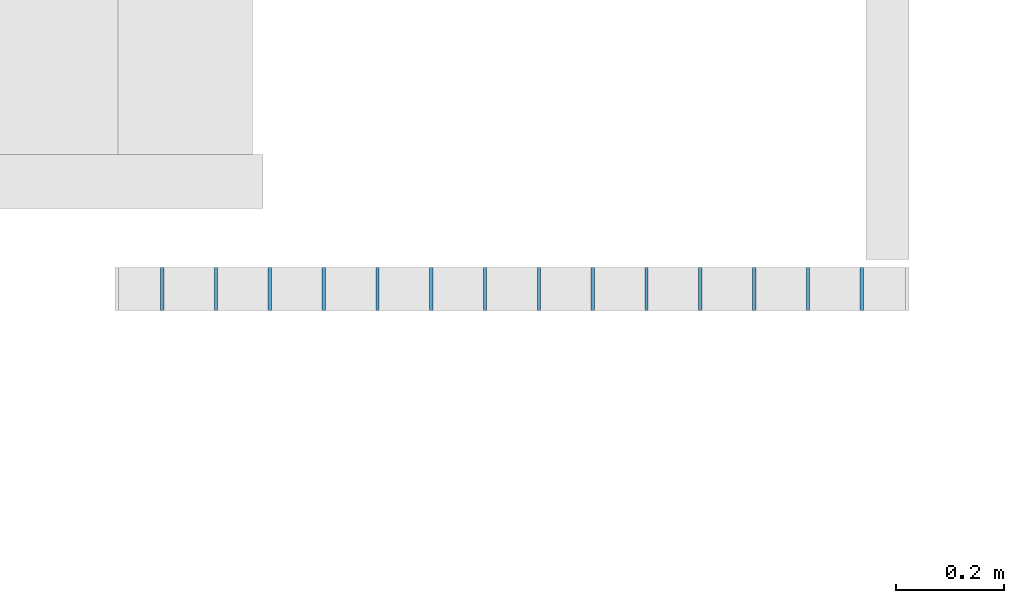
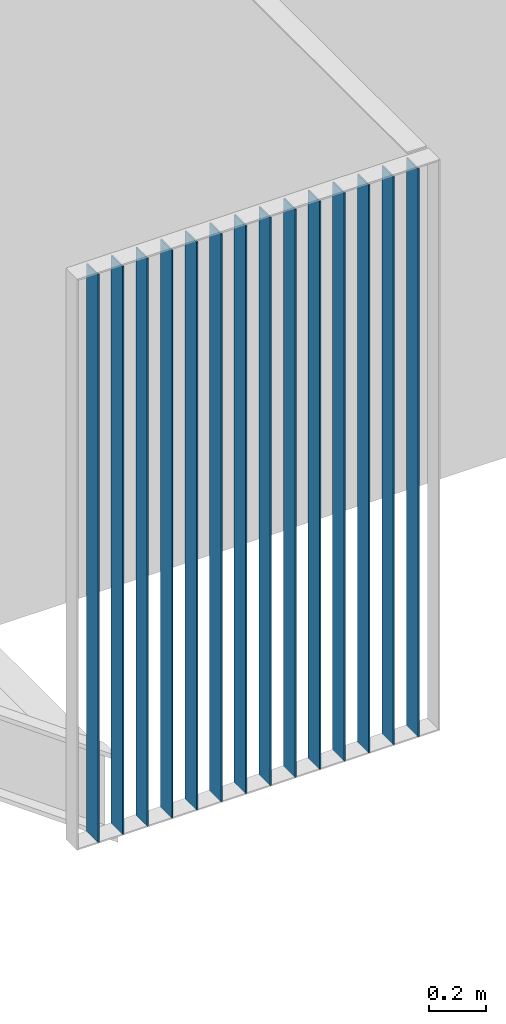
# One storey, part 4 of 347: 14 members, 1 element without a shape of its own.
"""IFC2X3 building model written with IfcOpenShell, lengths in millimetres."""

from ifc_helpers import new_model, entity, si_unit, converted_unit, derived_unit, money_unit, direction, frame, origin_with_axes, place, context, subcontext, project, spatial, faceted_brep, source, transform, mapped, material, type_object, type_shapes, element, aggregate, save


model = new_model("IFC2X3")

# Units and contexts
model_context = context("Model", 3, precision=0.01, world=origin_with_axes(), true_north=direction((0.0, 1.0)))
plan_context = context("Plan", 3, precision=0.01, world=origin_with_axes(), true_north=direction((0.0, 1.0)))
body_context = subcontext(model_context, "Body", "Model", "MODEL_VIEW")
ifc_project = project(units=[si_unit("LENGTHUNIT", "METRE", prefix="MILLI"), si_unit("AREAUNIT", "SQUARE_METRE"), si_unit("VOLUMEUNIT", "CUBIC_METRE"), converted_unit("PLANEANGLEUNIT", "DEGREE", entity("IfcPlaneAngleMeasure", 0.0174532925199), si_unit("PLANEANGLEUNIT", "RADIAN"), dimensions=[0, 0, 0, 0, 0, 0, 0]), money_unit("EUR"), converted_unit("TIMEUNIT", "Year", entity("IfcTimeMeasure", 31556926.0), si_unit("TIMEUNIT", "SECOND"), dimensions=[0, 0, 1, 0, 0, 0, 0]), si_unit("MASSUNIT", "GRAM", prefix="KILO"), si_unit("THERMODYNAMICTEMPERATUREUNIT", "DEGREE_CELSIUS"), si_unit("LUMINOUSINTENSITYUNIT", "LUMEN"), si_unit("ENERGYUNIT", "JOULE", prefix="MEGA"), derived_unit("THERMALCONDUCTANCEUNIT", [(si_unit("POWERUNIT", "WATT"), 1), (si_unit("LENGTHUNIT", "METRE"), -1), (si_unit("THERMODYNAMICTEMPERATUREUNIT", "KELVIN"), -1)]), derived_unit("SPECIFICHEATCAPACITYUNIT", [(si_unit("ENERGYUNIT", "JOULE"), 1), (si_unit("MASSUNIT", "GRAM", prefix="KILO"), -1), (si_unit("THERMODYNAMICTEMPERATUREUNIT", "KELVIN"), -1)]), derived_unit("MASSDENSITYUNIT", [(si_unit("MASSUNIT", "GRAM", prefix="KILO"), 1), (si_unit("VOLUMEUNIT", "CUBIC_METRE"), -1)])], contexts=[model_context, plan_context])

# Site, building, storey
site_placement = place(None, origin_with_axes())
site = spatial("IfcSite", under=ifc_project, at=site_placement, Name="Site", CompositionType="ELEMENT")
building_placement = place(site_placement, origin_with_axes())
building = spatial("IfcBuilding", under=site, at=building_placement, Name="Naam gebouw", CompositionType="ELEMENT")
storey_placement = place(building_placement, origin_with_axes())
storey = spatial("IfcBuildingStorey", under=building, at=storey_placement, Name="begane grond", CompositionType="ELEMENT", Elevation=0.0)

# Railing, members
railing_type = type_object("IfcRailingType", Name="Railing Type", PredefinedType="NOTDEFINED")
railing_placement = place(storey_placement, frame((53776.334071, 9964.99999938, 0.0), z_axis=(0.0, 0.0, 1.0), x_axis=(0.0, 1.0, 0.0)))
railing = element("IfcRailing", 1, at=railing_placement, inside=storey, type_object=railing_type, Name="_Reling-x", PredefinedType="NOTDEFINED")
ifc_material = material(Name="Metaal - RVS")
member_type = type_object("IfcMemberType", Name="IfcMember", PredefinedType="MEMBER")
shared_shape = source(origin_with_axes(), body_context, "Body", "Brep", [
    faceted_brep([(40.0, 3.0, 0.0), (-40.0, 3.0, 0.0), (-40.0, 3.0, 2440.0), (40.0, 3.0, 2440.0), (40.0, -3.0, 0.0), (-40.0, -3.0, 0.0), (-40.0, -3.0, 2440.0), (40.0, -3.0, 2440.0)], [[[0, 1, 2, 3]], [[0, 4, 5, 1]], [[1, 5, 6, 2]], [[3, 2, 6, 7]], [[4, 0, 3, 7]], [[5, 4, 7, 6]]]),
])
type_shapes(member_type, [shared_shape])
member_1_placement = place(railing_placement, frame((-55.0, 388.834149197, -50.0), z_axis=(0.0, 0.0, 1.0), x_axis=(0.0, -1.0, 0.0)))
member_1 = element("IfcMember", 2, at=member_1_placement, type_object=member_type, material=ifc_material, Name="_Spijlen-x", ObjectType="MEMBER", context=body_context, shape_type="MappedRepresentation", body=[
    mapped(shared_shape, transform((0.0, 0.0, 0.0), x_axis=(0.0, -1.0, 0.0), y_axis=(1.0, 0.0, 0.0), z_axis=(0.0, 0.0, 1.0))),
])
member_2_placement = place(railing_placement, frame((-55.0, 288.834149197, -50.0), z_axis=(0.0, 0.0, 1.0), x_axis=(0.0, -1.0, 0.0)))
member_2 = element("IfcMember", 3, at=member_2_placement, type_object=member_type, material=ifc_material, Name="_Spijlen-x", ObjectType="MEMBER", context=body_context, shape_type="MappedRepresentation", body=[
    mapped(shared_shape, transform((0.0, 0.0, 0.0), x_axis=(0.0, -1.0, 0.0), y_axis=(1.0, 0.0, 0.0), z_axis=(0.0, 0.0, 1.0))),
])
member_3_placement = place(railing_placement, frame((-55.0, 188.834149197, -50.0), z_axis=(0.0, 0.0, 1.0), x_axis=(0.0, -1.0, 0.0)))
member_3 = element("IfcMember", 4, at=member_3_placement, type_object=member_type, material=ifc_material, Name="_Spijlen-x", ObjectType="MEMBER", context=body_context, shape_type="MappedRepresentation", body=[
    mapped(shared_shape, transform((0.0, 0.0, 0.0), x_axis=(0.0, -1.0, 0.0), y_axis=(1.0, 0.0, 0.0), z_axis=(0.0, 0.0, 1.0))),
])
member_4_placement = place(railing_placement, frame((-55.0, 88.8341491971, -50.0), z_axis=(0.0, 0.0, 1.0), x_axis=(0.0, -1.0, 0.0)))
member_4 = element("IfcMember", 5, at=member_4_placement, type_object=member_type, material=ifc_material, Name="_Spijlen-x", ObjectType="MEMBER", context=body_context, shape_type="MappedRepresentation", body=[
    mapped(shared_shape, transform((0.0, 0.0, 0.0), x_axis=(0.0, -1.0, 0.0), y_axis=(1.0, 0.0, 0.0), z_axis=(0.0, 0.0, 1.0))),
])
member_5_placement = place(railing_placement, frame((-55.0, -11.1658508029, -50.0), z_axis=(0.0, 0.0, 1.0), x_axis=(0.0, -1.0, 0.0)))
member_5 = element("IfcMember", 6, at=member_5_placement, type_object=member_type, material=ifc_material, Name="_Spijlen-x", ObjectType="MEMBER", context=body_context, shape_type="MappedRepresentation", body=[
    mapped(shared_shape, transform((0.0, 0.0, 0.0), x_axis=(0.0, -1.0, 0.0), y_axis=(1.0, 0.0, 0.0), z_axis=(0.0, 0.0, 1.0))),
])
member_6_placement = place(railing_placement, frame((-55.0, -111.165850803, -50.0), z_axis=(0.0, 0.0, 1.0), x_axis=(0.0, -1.0, 0.0)))
member_6 = element("IfcMember", 7, at=member_6_placement, type_object=member_type, material=ifc_material, Name="_Spijlen-x", ObjectType="MEMBER", context=body_context, shape_type="MappedRepresentation", body=[
    mapped(shared_shape, transform((0.0, 0.0, 0.0), x_axis=(0.0, -1.0, 0.0), y_axis=(1.0, 0.0, 0.0), z_axis=(0.0, 0.0, 1.0))),
])
member_7_placement = place(railing_placement, frame((-55.0, -211.165850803, -50.0), z_axis=(0.0, 0.0, 1.0), x_axis=(0.0, -1.0, 0.0)))
member_7 = element("IfcMember", 8, at=member_7_placement, type_object=member_type, material=ifc_material, Name="_Spijlen-x", ObjectType="MEMBER", context=body_context, shape_type="MappedRepresentation", body=[
    mapped(shared_shape, transform((0.0, 0.0, 0.0), x_axis=(0.0, -1.0, 0.0), y_axis=(1.0, 0.0, 0.0), z_axis=(0.0, 0.0, 1.0))),
])
member_8_placement = place(railing_placement, frame((-55.0, -311.165850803, -50.0), z_axis=(0.0, 0.0, 1.0), x_axis=(0.0, -1.0, 0.0)))
member_8 = element("IfcMember", 9, at=member_8_placement, type_object=member_type, material=ifc_material, Name="_Spijlen-x", ObjectType="MEMBER", context=body_context, shape_type="MappedRepresentation", body=[
    mapped(shared_shape, transform((0.0, 0.0, 0.0), x_axis=(0.0, -1.0, 0.0), y_axis=(1.0, 0.0, 0.0), z_axis=(0.0, 0.0, 1.0))),
])
member_9_placement = place(railing_placement, frame((-55.0, -411.165850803, -50.0), z_axis=(0.0, 0.0, 1.0), x_axis=(0.0, -1.0, 0.0)))
member_9 = element("IfcMember", 10, at=member_9_placement, type_object=member_type, material=ifc_material, Name="_Spijlen-x", ObjectType="MEMBER", context=body_context, shape_type="MappedRepresentation", body=[
    mapped(shared_shape, transform((0.0, 0.0, 0.0), x_axis=(0.0, -1.0, 0.0), y_axis=(1.0, 0.0, 0.0), z_axis=(0.0, 0.0, 1.0))),
])
member_10_placement = place(railing_placement, frame((-55.0, -511.165850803, -50.0), z_axis=(0.0, 0.0, 1.0), x_axis=(0.0, -1.0, 0.0)))
member_10 = element("IfcMember", 11, at=member_10_placement, type_object=member_type, material=ifc_material, Name="_Spijlen-x", ObjectType="MEMBER", context=body_context, shape_type="MappedRepresentation", body=[
    mapped(shared_shape, transform((0.0, 0.0, 0.0), x_axis=(0.0, -1.0, 0.0), y_axis=(1.0, 0.0, 0.0), z_axis=(0.0, 0.0, 1.0))),
])
member_11_placement = place(railing_placement, frame((-55.0, -611.165850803, -50.0), z_axis=(0.0, 0.0, 1.0), x_axis=(0.0, -1.0, 0.0)))
member_11 = element("IfcMember", 12, at=member_11_placement, type_object=member_type, material=ifc_material, Name="_Spijlen-x", ObjectType="MEMBER", context=body_context, shape_type="MappedRepresentation", body=[
    mapped(shared_shape, transform((0.0, 0.0, 0.0), x_axis=(0.0, -1.0, 0.0), y_axis=(1.0, 0.0, 0.0), z_axis=(0.0, 0.0, 1.0))),
])
member_12_placement = place(railing_placement, frame((-55.0, -711.165850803, -50.0), z_axis=(0.0, 0.0, 1.0), x_axis=(0.0, -1.0, 0.0)))
member_12 = element("IfcMember", 13, at=member_12_placement, type_object=member_type, material=ifc_material, Name="_Spijlen-x", ObjectType="MEMBER", context=body_context, shape_type="MappedRepresentation", body=[
    mapped(shared_shape, transform((0.0, 0.0, 0.0), x_axis=(0.0, -1.0, 0.0), y_axis=(1.0, 0.0, 0.0), z_axis=(0.0, 0.0, 1.0))),
])
member_13_placement = place(railing_placement, frame((-55.0, -811.165850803, -50.0), z_axis=(0.0, 0.0, 1.0), x_axis=(0.0, -1.0, 0.0)))
member_13 = element("IfcMember", 14, at=member_13_placement, type_object=member_type, material=ifc_material, Name="_Spijlen-x", ObjectType="MEMBER", context=body_context, shape_type="MappedRepresentation", body=[
    mapped(shared_shape, transform((0.0, 0.0, 0.0), x_axis=(0.0, -1.0, 0.0), y_axis=(1.0, 0.0, 0.0), z_axis=(0.0, 0.0, 1.0))),
])
member_14_placement = place(railing_placement, frame((-55.0, -911.165850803, -50.0), z_axis=(0.0, 0.0, 1.0), x_axis=(0.0, -1.0, 0.0)))
member_14 = element("IfcMember", 15, at=member_14_placement, type_object=member_type, material=ifc_material, Name="_Spijlen-x", ObjectType="MEMBER", context=body_context, shape_type="MappedRepresentation", body=[
    mapped(shared_shape, transform((0.0, 0.0, 0.0), x_axis=(0.0, -1.0, 0.0), y_axis=(1.0, 0.0, 0.0), z_axis=(0.0, 0.0, 1.0))),
])
aggregate(railing, [member_1, member_2, member_3, member_4, member_5, member_6, member_7, member_8, member_9, member_10, member_11, member_12, member_13, member_14])

save(model, "model.ifc")
